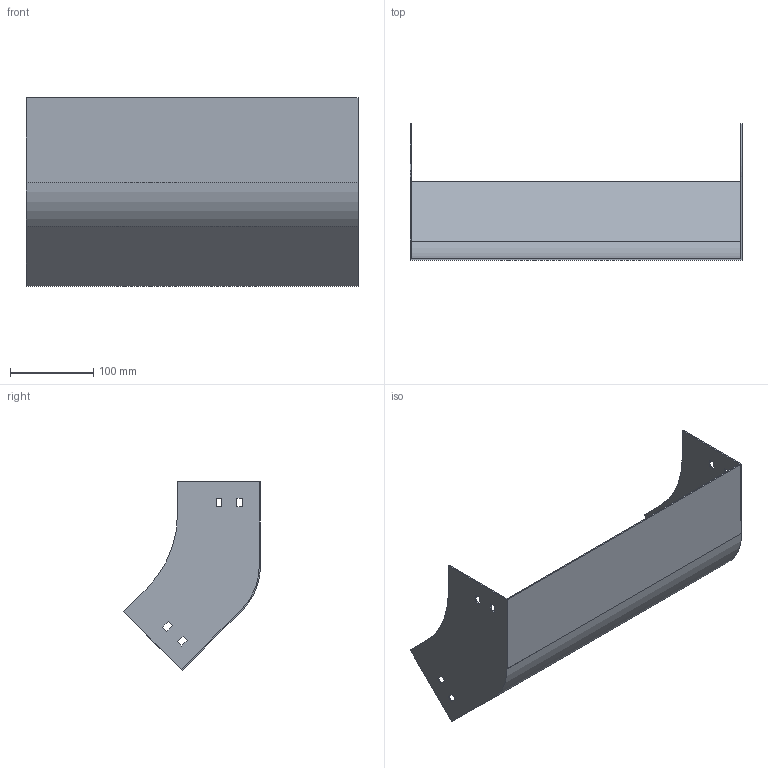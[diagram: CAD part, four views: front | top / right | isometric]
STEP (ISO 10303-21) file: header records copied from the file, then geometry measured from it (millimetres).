
FILE_DESCRIPTION (( 'STEP AP214' ), '1' );
FILE_NAME ('S4_401.step', '2025-07-16T09:26:55', ( '' ), ( '' ), 'SwSTEP 2.0', 'SolidWorks 2023', '' );
FILE_SCHEMA (( 'AUTOMOTIVE_DESIGN' ));
Length unit declared in the file: millimetre
Products named in the file (1): S4_401
Bounding box: 400 x 164.9 x 227.38 mm (x, y, z)
Volume: 223664.2 mm3; surface area: 300954.2 mm2
Topology: 1 solids, 1 shells, 50 faces, 144 edges, 96 vertices
Faces by surface type: plane 46, cylinder 4
Entity records: 1671 total; most frequent: CARTESIAN_POINT 291, ORIENTED_EDGE 288, DIRECTION 254, EDGE_CURVE 144, LINE 136, VECTOR 136, VERTEX_POINT 96, EDGE_LOOP 66
